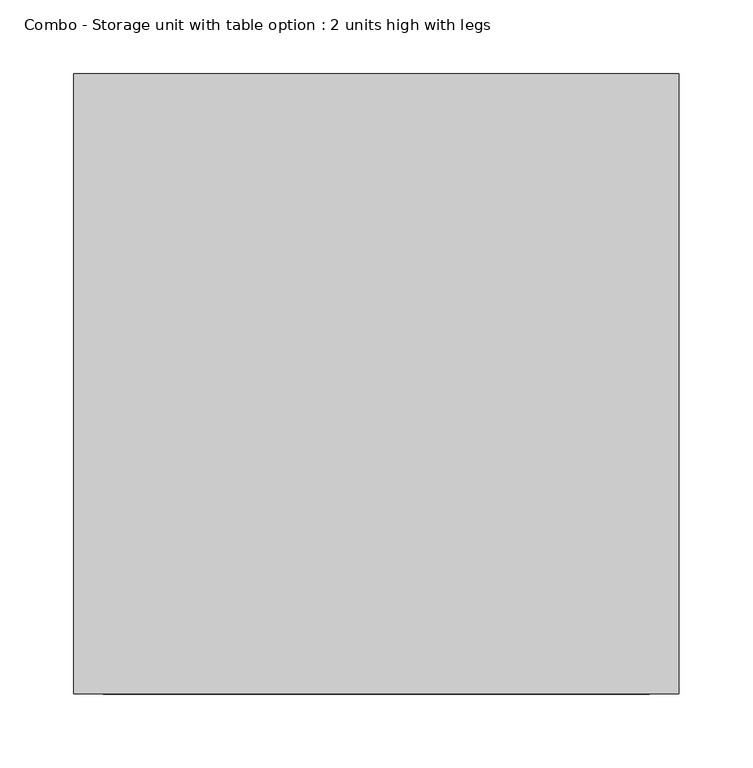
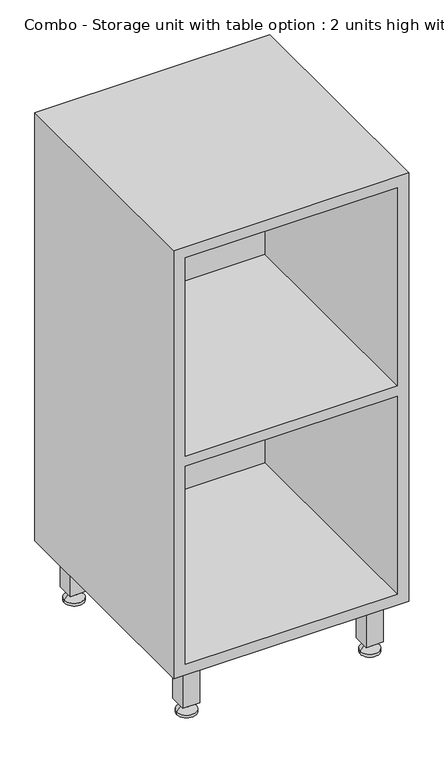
"""IFC4 building model written with IfcOpenShell, lengths in millimetres: furniture geometry, Combo - Storage unit with table option : 2 units high with legs."""

from ifc_helpers import new_model, si_unit, frame, origin, place, context, project, spatial, polyline, circle_curve, outline, extrude, faceted_brep, source, transform, mapped, element, save
from ifc_brep_helpers import plane_surface, cylinder_surface, revolved_surface, advanced_brep


def combo_storage_unit_with_table_option_2_units_high_with_legs_ef2d6247(model_context):
    return source(origin(), model_context, "Body", "SolidModel", [
        extrude(outline(polyline([(-175.0, -365.0), (-145.0, -365.0), (-145.0, -395.0), (-175.0, -395.0), (-175.0, -365.0)])), frame((0.0, 0.0, 20.0), z_axis=(0.0, 0.0, 1.0), x_axis=(1.0, 0.0, 0.0)), (0.0, 0.0, 1.0), 80.0),
        extrude(outline(polyline([(175.0, -365.0), (175.0, -395.0), (145.0, -395.0), (145.0, -365.0), (175.0, -365.0)])), frame((0.0, 0.0, 20.0), z_axis=(0.0, 0.0, 1.0), x_axis=(1.0, 0.0, 0.0)), (0.0, 0.0, 1.0), 80.0),
        extrude(outline(polyline([(-175.0, -55.0), (-175.0, -25.0), (-145.0, -25.0), (-145.0, -55.0), (-175.0, -55.0)])), frame((0.0, 0.0, 20.0), z_axis=(0.0, 0.0, 1.0), x_axis=(1.0, 0.0, 0.0)), (0.0, 0.0, 1.0), 80.0),
        extrude(outline(polyline([(175.0, -55.0), (145.0, -55.0), (145.0, -25.0), (175.0, -25.0), (175.0, -55.0)])), frame((0.0, 0.0, 20.0), z_axis=(0.0, 0.0, 1.0), x_axis=(1.0, 0.0, 0.0)), (0.0, 0.0, 1.0), 80.0),
        advanced_brep(
        [(152.1856158, -40.0, 20.0), (167.8143842, -40.0, 20.0), (160.0, -40.0, 20.0), (152.1856158, -40.0, 14.2030034), (167.8143842, -40.0, 14.2030034), (142.9826125, -40.0, 5.0), (177.0173875, -40.0, 5.0), (142.9826125, -40.0, 0.0), (177.0173875, -40.0, 0.0), (160.0, -40.0, 0.0)],
        [
            (0, 1, circle_curve(frame((160.0, -40.0, 20.0), z_axis=(0.0, 0.0, 1.0), x_axis=(1.0, 0.0, 0.0)), 7.8143842)),
            (1, 2),
            (2, 0),
            (1, 0, circle_curve(frame((160.0, -40.0, 20.0), z_axis=(0.0, 0.0, 1.0), x_axis=(1.0, 0.0, 0.0)), 7.8143842)),
            (3, 4, circle_curve(frame((160.0, -40.0, 14.2030034), z_axis=(0.0, 0.0, 1.0), x_axis=(1.0, 0.0, 0.0)), 7.8143842)),
            (4, 1),
            (0, 3),
            (4, 3, circle_curve(frame((160.0, -40.0, 14.2030034), z_axis=(0.0, 0.0, 1.0), x_axis=(1.0, 0.0, 0.0)), 7.8143842)),
            (5, 6, circle_curve(frame((160.0, -40.0, 5.0), z_axis=(0.0, 0.0, 1.0), x_axis=(1.0, 0.0, 0.0)), 17.0173875)),
            (6, 4),
            (3, 5),
            (6, 5, circle_curve(frame((160.0, -40.0, 5.0), z_axis=(0.0, 0.0, 1.0), x_axis=(1.0, 0.0, 0.0)), 17.0173875)),
            (7, 8, circle_curve(frame((160.0, -40.0, 0.0), z_axis=(0.0, 0.0, 1.0), x_axis=(1.0, 0.0, 0.0)), 17.0173875)),
            (8, 6),
            (5, 7),
            (8, 7, circle_curve(frame((160.0, -40.0, 0.0), z_axis=(0.0, 0.0, 1.0), x_axis=(1.0, 0.0, 0.0)), 17.0173875)),
            (9, 8),
            (7, 9),
        ],
        [
            plane_surface(frame((160.0, -40.0, 20.0), z_axis=(0.0, 0.0, 1.0), x_axis=(1.0, 0.0, 0.0))),
            cylinder_surface(frame((160.0, -40.0, 20.0), z_axis=(0.0, 0.0, -1.0), x_axis=(1.0, 0.0, 0.0)), 7.8143842),
            revolved_surface(polyline([(167.8143842, -40.0, 14.2030034), (177.0173875, -40.0, 5.0)]), (160.0, -40.0, 20.0), (0.0, 0.0, -1.0)),
            cylinder_surface(frame((160.0, -40.0, 20.0), z_axis=(0.0, 0.0, -1.0), x_axis=(1.0, 0.0, 0.0)), 17.0173875),
            plane_surface(frame((160.0, -40.0, 0.0), z_axis=(0.0, 0.0, -1.0), x_axis=(1.0, 0.0, 0.0))),
        ],
        [
            (0, [[1, 2, 3]]),
            (0, [[4, -3, -2]]),
            (1, [[5, 6, -1, 7]]),
            (1, [[8, -7, -4, -6]]),
            (2, [[9, 10, -5, 11]]),
            (2, [[12, -11, -8, -10]]),
            (3, [[13, 14, -9, 15]]),
            (3, [[16, -15, -12, -14]]),
            (4, [[17, -13, 18]]),
            (4, [[-18, -16, -17]]),
        ],
    ),
        advanced_brep(
        [(-167.8143842, -40.0, 20.0), (-152.1856158, -40.0, 20.0), (-160.0, -40.0, 20.0), (-167.8143842, -40.0, 14.2030034), (-152.1856158, -40.0, 14.2030034), (-177.0173875, -40.0, 5.0), (-142.9826125, -40.0, 5.0), (-177.0173875, -40.0, 0.0), (-142.9826125, -40.0, 0.0), (-160.0, -40.0, 0.0)],
        [
            (0, 1, circle_curve(frame((-160.0, -40.0, 20.0), z_axis=(0.0, 0.0, 1.0), x_axis=(1.0, 0.0, 0.0)), 7.8143842)),
            (1, 2),
            (2, 0),
            (1, 0, circle_curve(frame((-160.0, -40.0, 20.0), z_axis=(0.0, 0.0, 1.0), x_axis=(1.0, 0.0, 0.0)), 7.8143842)),
            (3, 4, circle_curve(frame((-160.0, -40.0, 14.2030034), z_axis=(0.0, 0.0, 1.0), x_axis=(1.0, 0.0, 0.0)), 7.8143842)),
            (4, 1),
            (0, 3),
            (4, 3, circle_curve(frame((-160.0, -40.0, 14.2030034), z_axis=(0.0, 0.0, 1.0), x_axis=(1.0, 0.0, 0.0)), 7.8143842)),
            (5, 6, circle_curve(frame((-160.0, -40.0, 5.0), z_axis=(0.0, 0.0, 1.0), x_axis=(1.0, 0.0, 0.0)), 17.0173875)),
            (6, 4),
            (3, 5),
            (6, 5, circle_curve(frame((-160.0, -40.0, 5.0), z_axis=(0.0, 0.0, 1.0), x_axis=(1.0, 0.0, 0.0)), 17.0173875)),
            (7, 8, circle_curve(frame((-160.0, -40.0, 0.0), z_axis=(0.0, 0.0, 1.0), x_axis=(1.0, 0.0, 0.0)), 17.0173875)),
            (8, 6),
            (5, 7),
            (8, 7, circle_curve(frame((-160.0, -40.0, 0.0), z_axis=(0.0, 0.0, 1.0), x_axis=(1.0, 0.0, 0.0)), 17.0173875)),
            (9, 8),
            (7, 9),
        ],
        [
            plane_surface(frame((-160.0, -40.0, 20.0), z_axis=(0.0, 0.0, 1.0), x_axis=(1.0, 0.0, 0.0))),
            cylinder_surface(frame((-160.0, -40.0, 20.0), z_axis=(0.0, 0.0, -1.0), x_axis=(1.0, 0.0, 0.0)), 7.8143842),
            revolved_surface(polyline([(-152.1856158, -40.0, 14.2030034), (-142.9826125, -40.0, 5.0)]), (-160.0, -40.0, 20.0), (0.0, 0.0, -1.0)),
            cylinder_surface(frame((-160.0, -40.0, 20.0), z_axis=(0.0, 0.0, -1.0), x_axis=(1.0, 0.0, 0.0)), 17.0173875),
            plane_surface(frame((-160.0, -40.0, 0.0), z_axis=(0.0, 0.0, -1.0), x_axis=(1.0, 0.0, 0.0))),
        ],
        [
            (0, [[1, 2, 3]]),
            (0, [[4, -3, -2]]),
            (1, [[5, 6, -1, 7]]),
            (1, [[8, -7, -4, -6]]),
            (2, [[9, 10, -5, 11]]),
            (2, [[12, -11, -8, -10]]),
            (3, [[13, 14, -9, 15]]),
            (3, [[16, -15, -12, -14]]),
            (4, [[17, -13, 18]]),
            (4, [[-18, -16, -17]]),
        ],
    ),
        advanced_brep(
        [(152.1856158, -380.0, 20.0), (167.8143842, -380.0, 20.0), (160.0, -380.0, 20.0), (152.1856158, -380.0, 14.2030034), (167.8143842, -380.0, 14.2030034), (142.9826125, -380.0, 5.0), (177.0173875, -380.0, 5.0), (142.9826125, -380.0, 0.0), (177.0173875, -380.0, 0.0), (160.0, -380.0, 0.0)],
        [
            (0, 1, circle_curve(frame((160.0, -380.0, 20.0), z_axis=(0.0, 0.0, 1.0), x_axis=(1.0, 0.0, 0.0)), 7.8143842)),
            (1, 2),
            (2, 0),
            (1, 0, circle_curve(frame((160.0, -380.0, 20.0), z_axis=(0.0, 0.0, 1.0), x_axis=(1.0, 0.0, 0.0)), 7.8143842)),
            (3, 4, circle_curve(frame((160.0, -380.0, 14.2030034), z_axis=(0.0, 0.0, 1.0), x_axis=(1.0, 0.0, 0.0)), 7.8143842)),
            (4, 1),
            (0, 3),
            (4, 3, circle_curve(frame((160.0, -380.0, 14.2030034), z_axis=(0.0, 0.0, 1.0), x_axis=(1.0, 0.0, 0.0)), 7.8143842)),
            (5, 6, circle_curve(frame((160.0, -380.0, 5.0), z_axis=(0.0, 0.0, 1.0), x_axis=(1.0, 0.0, 0.0)), 17.0173875)),
            (6, 4),
            (3, 5),
            (6, 5, circle_curve(frame((160.0, -380.0, 5.0), z_axis=(0.0, 0.0, 1.0), x_axis=(1.0, 0.0, 0.0)), 17.0173875)),
            (7, 8, circle_curve(frame((160.0, -380.0, 0.0), z_axis=(0.0, 0.0, 1.0), x_axis=(1.0, 0.0, 0.0)), 17.0173875)),
            (8, 6),
            (5, 7),
            (8, 7, circle_curve(frame((160.0, -380.0, 0.0), z_axis=(0.0, 0.0, 1.0), x_axis=(1.0, 0.0, 0.0)), 17.0173875)),
            (9, 8),
            (7, 9),
        ],
        [
            plane_surface(frame((160.0, -380.0, 20.0), z_axis=(0.0, 0.0, 1.0), x_axis=(1.0, 0.0, 0.0))),
            cylinder_surface(frame((160.0, -380.0, 20.0), z_axis=(0.0, 0.0, -1.0), x_axis=(1.0, 0.0, 0.0)), 7.8143842),
            revolved_surface(polyline([(167.8143842, -380.0, 14.2030034), (177.0173875, -380.0, 5.0)]), (160.0, -380.0, 20.0), (0.0, 0.0, -1.0)),
            cylinder_surface(frame((160.0, -380.0, 20.0), z_axis=(0.0, 0.0, -1.0), x_axis=(1.0, 0.0, 0.0)), 17.0173875),
            plane_surface(frame((160.0, -380.0, 0.0), z_axis=(0.0, 0.0, -1.0), x_axis=(1.0, 0.0, 0.0))),
        ],
        [
            (0, [[1, 2, 3]]),
            (0, [[4, -3, -2]]),
            (1, [[5, 6, -1, 7]]),
            (1, [[8, -7, -4, -6]]),
            (2, [[9, 10, -5, 11]]),
            (2, [[12, -11, -8, -10]]),
            (3, [[13, 14, -9, 15]]),
            (3, [[16, -15, -12, -14]]),
            (4, [[17, -13, 18]]),
            (4, [[-18, -16, -17]]),
        ],
    ),
        advanced_brep(
        [(-167.8143842, -380.0, 20.0), (-152.1856158, -380.0, 20.0), (-160.0, -380.0, 20.0), (-167.8143842, -380.0, 14.2030034), (-152.1856158, -380.0, 14.2030034), (-177.0173875, -380.0, 5.0), (-142.9826125, -380.0, 5.0), (-177.0173875, -380.0, 0.0), (-142.9826125, -380.0, 0.0), (-160.0, -380.0, 0.0)],
        [
            (0, 1, circle_curve(frame((-160.0, -380.0, 20.0), z_axis=(0.0, 0.0, 1.0), x_axis=(1.0, 0.0, 0.0)), 7.8143842)),
            (1, 2),
            (2, 0),
            (1, 0, circle_curve(frame((-160.0, -380.0, 20.0), z_axis=(0.0, 0.0, 1.0), x_axis=(1.0, 0.0, 0.0)), 7.8143842)),
            (3, 4, circle_curve(frame((-160.0, -380.0, 14.2030034), z_axis=(0.0, 0.0, 1.0), x_axis=(1.0, 0.0, 0.0)), 7.8143842)),
            (4, 1),
            (0, 3),
            (4, 3, circle_curve(frame((-160.0, -380.0, 14.2030034), z_axis=(0.0, 0.0, 1.0), x_axis=(1.0, 0.0, 0.0)), 7.8143842)),
            (5, 6, circle_curve(frame((-160.0, -380.0, 5.0), z_axis=(0.0, 0.0, 1.0), x_axis=(1.0, 0.0, 0.0)), 17.0173875)),
            (6, 4),
            (3, 5),
            (6, 5, circle_curve(frame((-160.0, -380.0, 5.0), z_axis=(0.0, 0.0, 1.0), x_axis=(1.0, 0.0, 0.0)), 17.0173875)),
            (7, 8, circle_curve(frame((-160.0, -380.0, 0.0), z_axis=(0.0, 0.0, 1.0), x_axis=(1.0, 0.0, 0.0)), 17.0173875)),
            (8, 6),
            (5, 7),
            (8, 7, circle_curve(frame((-160.0, -380.0, 0.0), z_axis=(0.0, 0.0, 1.0), x_axis=(1.0, 0.0, 0.0)), 17.0173875)),
            (9, 8),
            (7, 9),
        ],
        [
            plane_surface(frame((-160.0, -380.0, 20.0), z_axis=(0.0, 0.0, 1.0), x_axis=(1.0, 0.0, 0.0))),
            cylinder_surface(frame((-160.0, -380.0, 20.0), z_axis=(0.0, 0.0, -1.0), x_axis=(1.0, 0.0, 0.0)), 7.8143842),
            revolved_surface(polyline([(-152.1856158, -380.0, 14.2030034), (-142.9826125, -380.0, 5.0)]), (-160.0, -380.0, 20.0), (0.0, 0.0, -1.0)),
            cylinder_surface(frame((-160.0, -380.0, 20.0), z_axis=(0.0, 0.0, -1.0), x_axis=(1.0, 0.0, 0.0)), 17.0173875),
            plane_surface(frame((-160.0, -380.0, 0.0), z_axis=(0.0, 0.0, -1.0), x_axis=(1.0, 0.0, 0.0))),
        ],
        [
            (0, [[1, 2, 3]]),
            (0, [[4, -3, -2]]),
            (1, [[5, 6, -1, 7]]),
            (1, [[8, -7, -4, -6]]),
            (2, [[9, 10, -5, 11]]),
            (2, [[12, -11, -8, -10]]),
            (3, [[13, 14, -9, 15]]),
            (3, [[16, -15, -12, -14]]),
            (4, [[17, -13, 18]]),
            (4, [[-18, -16, -17]]),
        ],
    ),
        faceted_brep([(205.0, 0.0, 890.0), (-205.0, 0.0, 890.0), (-205.0, -420.0, 890.0), (205.0, -420.0, 890.0), (-205.0, 0.0, 100.0), (205.0, 0.0, 100.0), (205.0, -420.0, 100.0), (-205.0, -420.0, 100.0), (185.0, -420.0, 485.0), (185.0, -420.0, 120.0), (-185.0, -420.0, 120.0), (-185.0, -420.0, 485.0), (-185.0, -420.0, 870.0), (185.0, -420.0, 870.0), (185.0, -420.0, 504.0), (-185.0, -420.0, 504.0), (185.0, -20.0, 120.0), (185.0, -20.0, 485.0), (-185.0, -20.0, 485.0), (-185.0, -20.0, 120.0), (185.0, -20.0, 870.0), (-185.0, -20.0, 870.0), (-185.0, -20.0, 504.0), (185.0, -20.0, 504.0)], [[[0, 1, 2, 3]], [[4, 5, 6, 7]], [[1, 0, 5, 4]], [[2, 1, 4, 7]], [[3, 2, 7, 6], [8, 9, 10, 11], [12, 13, 14, 15]], [[0, 3, 6, 5]], [[16, 17, 18, 19]], [[17, 16, 9, 8]], [[18, 17, 8, 11]], [[19, 18, 11, 10]], [[16, 19, 10, 9]], [[20, 21, 22, 23]], [[13, 20, 23, 14]], [[21, 20, 13, 12]], [[21, 12, 15, 22]], [[23, 22, 15, 14]]]),
    ])


if __name__ == "__main__":
    model = new_model("IFC4")
    model_context = context("Model", 3, world=origin())
    ifc_project = project(units=[si_unit("LENGTHUNIT", "METRE", prefix="MILLI")], contexts=[model_context])
    site = spatial("IfcSite", under=ifc_project)
    building = spatial("IfcBuilding", under=site)
    placement = place(None, origin())
    combo_storage_unit_with_table_option_2_units_high_with_legs_shape = combo_storage_unit_with_table_option_2_units_high_with_legs_ef2d6247(model_context)
    element("IfcFurniture", 1, ObjectType="Combo - Storage unit with table option : 2 units high with legs", at=placement, inside=building, context=model_context, shape_type="MappedRepresentation", body=[
        mapped(combo_storage_unit_with_table_option_2_units_high_with_legs_shape, transform((0.0, 0.0, 0.0), x_axis=(1.0, 0.0, 0.0), y_axis=(0.0, 1.0, 0.0), z_axis=(0.0, 0.0, 1.0))),
    ])
    save(model, "model.ifc")
